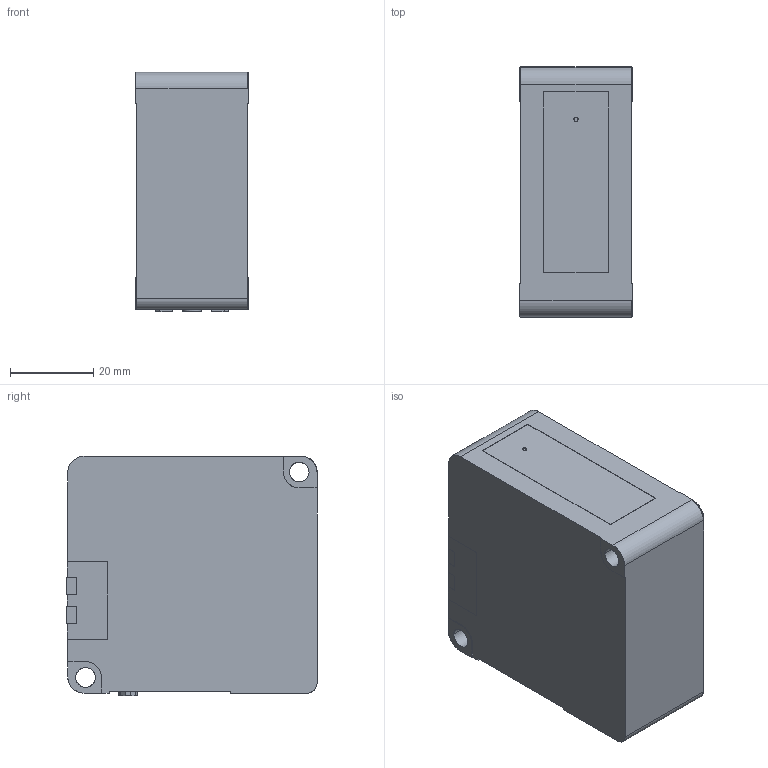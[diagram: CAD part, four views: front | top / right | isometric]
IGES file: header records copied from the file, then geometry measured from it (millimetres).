
Start section: SolidWorks IGES file using analytic representation for surfaces
Global section: file name: C:\Users\4047369\Desktop\取説\01_HL-G2\外形図(2D、3D)\3D\HL-G2本体\hl-g203b-s-mk.IGS; native system: SolidWorks 2022; preprocessor: SolidWorks 2022; author: 4047369; date: 240119.091635; units: millimetre
Bounding box: 27 x 60.2 x 57.6 mm (x, y, z)
Surface area: 14976.9 mm2 (no closed solid volume)
Topology: 0 solids, 0 shells, 109 faces, 1074 edges, 1074 vertices
Faces by surface type: bspline 86, revolution 23
